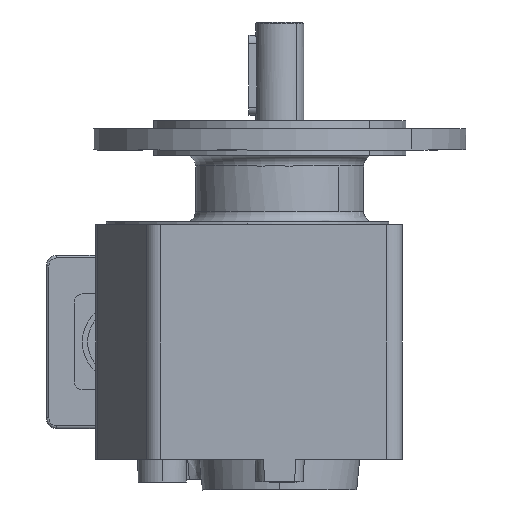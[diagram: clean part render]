
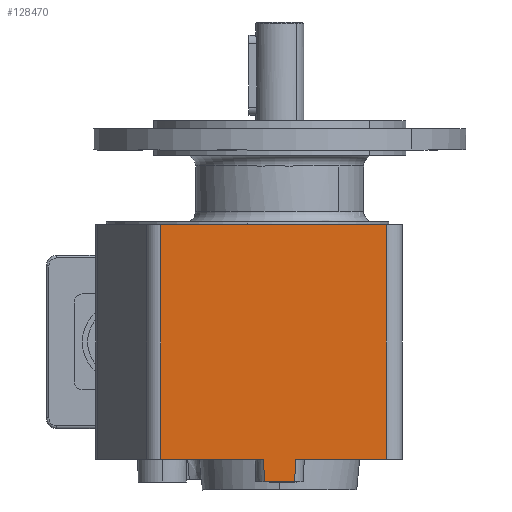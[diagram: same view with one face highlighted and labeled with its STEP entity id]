
A CAD part, left-side view. The second image highlights one B-rep face of the part: STEP entity #128470.
In plain terms, the highlighted planar face has unit normal (-1, 0, 0) as drawn and (0, 0, 1) by its records, which use the part's own axes.
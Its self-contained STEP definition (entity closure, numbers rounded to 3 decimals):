
#111280=CARTESIAN_POINT('',(-89.458,-334.478,262.5));
#111290=VERTEX_POINT('',#111280);
#111320=CARTESIAN_POINT('',(-89.458,-188.577,262.5));
#111330=DIRECTION('',(0.,1.,0.));
#111340=VECTOR('',#111330,1.);
#111350=LINE('',#111320,#111340);
#111360=CARTESIAN_POINT('',(-89.458,-249.942,262.5));
#111370=VERTEX_POINT('',#111360);
#111380=EDGE_CURVE('',#111290,#111370,#111350,.T.);
#125960=CARTESIAN_POINT('',(-177.458,-334.478,262.5));
#125970=VERTEX_POINT('',#125960);
#126000=CARTESIAN_POINT('',(-94.231,-334.478,262.5));
#126010=DIRECTION('',(1.,0.,0.));
#126020=VECTOR('',#126010,1.);
#126030=LINE('',#126000,#126020);
#126040=EDGE_CURVE('',#125970,#111290,#126030,.T.);
#127640=CARTESIAN_POINT('',(-94.231,-249.942,262.5));
#127650=DIRECTION('',(1.,0.,0.));
#127660=VECTOR('',#127650,1.);
#127670=LINE('',#127640,#127660);
#127680=CARTESIAN_POINT('',(-177.458,-249.942,262.5));
#127690=VERTEX_POINT('',#127680);
#127700=EDGE_CURVE('',#127690,#111370,#127670,.T.);
#127830=CARTESIAN_POINT('',(-94.231,-188.577,262.5));
#127840=DIRECTION('',(0.,0.,1.));
#127850=DIRECTION('',(-1.,0.,0.));
#127860=AXIS2_PLACEMENT_3D('',#127830,#127840,#127850);
#127870=PLANE('',#127860);
#127880=CARTESIAN_POINT('',(-177.458,-188.577,262.5));
#127890=DIRECTION('',(0.,-1.,0.));
#127900=VECTOR('',#127890,1.);
#127910=LINE('',#127880,#127900);
#127920=CARTESIAN_POINT('',(-177.458,-300.501,262.5));
#127930=VERTEX_POINT('',#127920);
#127940=EDGE_CURVE('',#127930,#125970,#127910,.T.);
#127950=ORIENTED_EDGE('',*,*,#127940,.T.);
#127960=CARTESIAN_POINT('',(-177.458,-300.501,262.5));
#127970=CARTESIAN_POINT('',(-178.166,-300.471,262.5));
#127980=CARTESIAN_POINT('',(-178.874,-300.441,262.5));
#127990=CARTESIAN_POINT('',(-179.583,-300.411,262.5));
#128000=CARTESIAN_POINT('',(-180.291,-300.381,262.5));
#128010=CARTESIAN_POINT('',(-180.999,-300.35,
262.5));
#128020=CARTESIAN_POINT('',(-181.708,-300.32,
262.5));
#128030=CARTESIAN_POINT('',(-182.416,-300.289,
262.5));
#128040=CARTESIAN_POINT('',(-183.124,-300.258,262.5));
#128050=CARTESIAN_POINT('',(-183.833,-300.227,262.5));
#128060=CARTESIAN_POINT('',(-184.541,-300.197,262.5));
#128070=CARTESIAN_POINT('',(-185.249,-300.166,262.5));
#128080=CARTESIAN_POINT('',(-185.958,-300.134,262.5));
#128090=B_SPLINE_CURVE_WITH_KNOTS('',3,(#127960,#127970,#127980,#127990,
#128000,#128010,#128020,#128030,#128040,#128050,#128060,#128070,#128080)
,.UNSPECIFIED.,.F.,.F.,(4,3,3,3,4),(0.,2.127,4.254
,6.381,8.508),.UNSPECIFIED.);
#128100=CARTESIAN_POINT('',(-185.958,-300.134,262.5));
#128110=VERTEX_POINT('',#128100);
#128120=EDGE_CURVE('',#127930,#128110,#128090,.T.);
#128130=ORIENTED_EDGE('',*,*,#128120,.F.);
#128140=CARTESIAN_POINT('',(-185.958,-188.577,262.5));
#128150=DIRECTION('',(0.,-1.,0.));
#128160=VECTOR('',#128150,1.);
#128170=LINE('',#128140,#128160);
#128180=CARTESIAN_POINT('',(-185.958,-288.821,262.5));
#128190=VERTEX_POINT('',#128180);
#128200=EDGE_CURVE('',#128190,#128110,#128170,.T.);
#128210=ORIENTED_EDGE('',*,*,#128200,.T.);
#128220=CARTESIAN_POINT('',(-185.958,-288.821,262.5));
#128230=CARTESIAN_POINT('',(-185.249,-288.79,262.5));
#128240=CARTESIAN_POINT('',(-184.541,-288.759,262.5));
#128250=CARTESIAN_POINT('',(-183.833,-288.728,262.5));
#128260=CARTESIAN_POINT('',(-183.124,-288.697,262.5));
#128270=CARTESIAN_POINT('',(-182.416,-288.666,262.5));
#128280=CARTESIAN_POINT('',(-181.708,-288.636,262.5));
#128290=CARTESIAN_POINT('',(-180.999,-288.605,262.5));
#128300=CARTESIAN_POINT('',(-180.291,-288.575,262.5));
#128310=CARTESIAN_POINT('',(-179.583,-288.544,262.5));
#128320=CARTESIAN_POINT('',(-178.874,-288.514,262.5));
#128330=CARTESIAN_POINT('',(-178.166,-288.484,262.5));
#128340=CARTESIAN_POINT('',(-177.458,-288.454,262.5));
#128350=B_SPLINE_CURVE_WITH_KNOTS('',3,(#128220,#128230,#128240,#128250,
#128260,#128270,#128280,#128290,#128300,#128310,#128320,#128330,#128340)
,.UNSPECIFIED.,.F.,.F.,(4,3,3,3,4),(0.,2.127,4.254
,6.381,8.508),.UNSPECIFIED.);
#128360=CARTESIAN_POINT('',(-177.458,-288.454,262.5));
#128370=VERTEX_POINT('',#128360);
#128380=EDGE_CURVE('',#128190,#128370,#128350,.T.);
#128390=ORIENTED_EDGE('',*,*,#128380,.F.);
#128400=EDGE_CURVE('',#127690,#128370,#127910,.T.);
#128410=ORIENTED_EDGE('',*,*,#128400,.T.);
#128420=ORIENTED_EDGE('',*,*,#127700,.F.);
#128430=ORIENTED_EDGE('',*,*,#111380,.T.);
#128440=ORIENTED_EDGE('',*,*,#126040,.T.);
#128450=EDGE_LOOP('',(#128440,#128430,#128420,#128410,#128390,#128210,
#128130,#127950));
#128460=FACE_OUTER_BOUND('',#128450,.T.);
#128470=ADVANCED_FACE('',(#128460),#127870,.T.);
